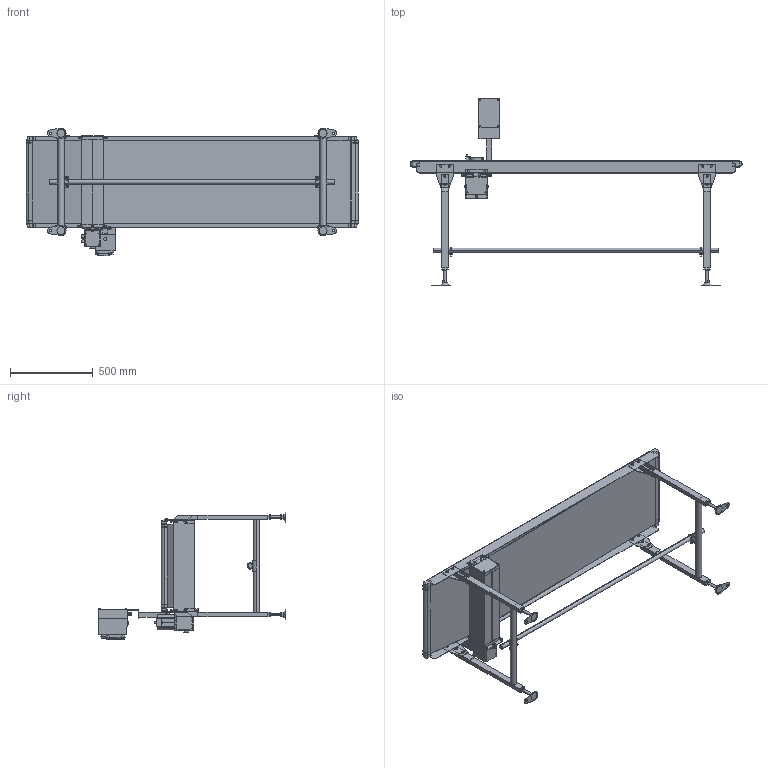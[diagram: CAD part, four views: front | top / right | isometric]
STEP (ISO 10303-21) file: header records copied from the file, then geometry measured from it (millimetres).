
FILE_DESCRIPTION (( 'STEP AP214' ), '1' );
FILE_NAME ('FSDHS-500-2000-R.STEP', '2023-04-20T23:38:52', ( '' ), ( '' ), 'SwSTEP 2.0', 'SolidWorks 2017', '' );
FILE_SCHEMA (( 'AUTOMOTIVE_DESIGN' ));
Length unit declared in the file: millimetre
Products named in the file (1): FSDHS-500-2000-R
Bounding box: 2001.4 x 1131 x 769.99 mm (x, y, z)
Volume: 26783801.7 mm3; surface area: 9290957.5 mm2
Topology: 48 solids, 54 shells, 2266 faces, 5572 edges, 3646 vertices
Faces by surface type: plane 1470, cylinder 733, cone 45, bspline 14, torus 4
Entity records: 94319 total; most frequent: CARTESIAN_POINT 13679, DIRECTION 11636, ORIENTED_EDGE 11124, EDGE_CURVE 5562, AXIS2_PLACEMENT_3D 3894, LINE 3848, VECTOR 3848, VERTEX_POINT 3646
